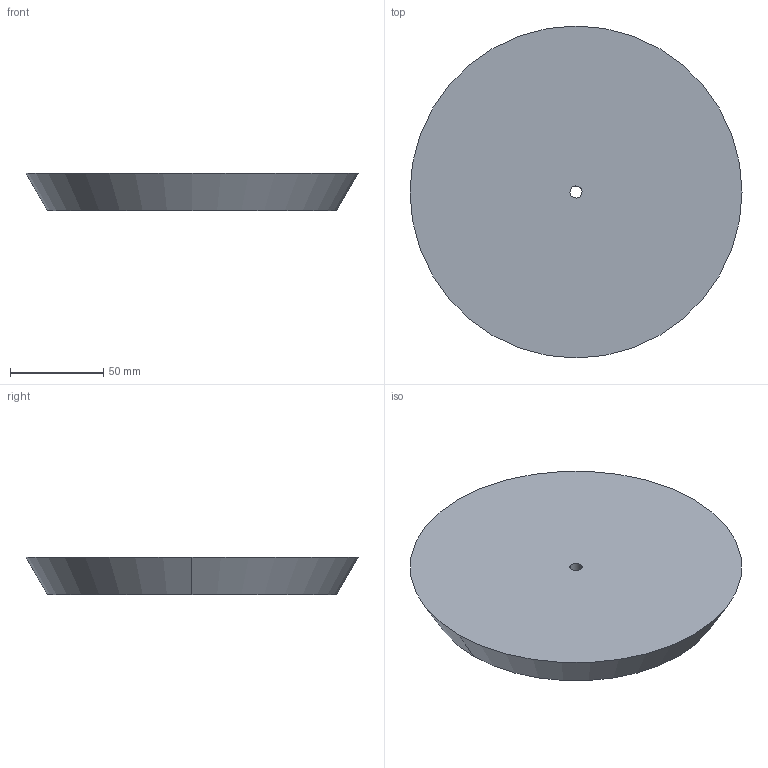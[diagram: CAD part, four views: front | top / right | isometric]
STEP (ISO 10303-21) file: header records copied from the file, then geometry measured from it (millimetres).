
FILE_DESCRIPTION(('CATIA V5 STEP Exchange'),'2;1');
FILE_NAME('C:\Users\andres.garcia\OneDrive - IQS\ASIGNATURAS\DAO\Controles\2223\c0\c1-GARCIA_Andres-tapon.stp','2023-02-03T08:22:08+00:00',('none'),('none'),'CATIA Version 5-6 Release 2013 SP6','CATIA V5 STEP AP203','none');
FILE_SCHEMA(('CONFIG_CONTROL_DESIGN'));
Length unit declared in the file: millimetre
Products named in the file (1): c1-GARCIA_Andres-tapon
Bounding box: 178 x 178 x 20 mm (x, y, z)
Volume: 435248.7 mm3; surface area: 56149.4 mm2
Topology: 1 solids, 1 shells, 6 faces, 12 edges, 8 vertices
Faces by surface type: cylinder 2, plane 2, cone 2
Entity records: 196 total; most frequent: CARTESIAN_POINT 26, ORIENTED_EDGE 24, DIRECTION 22, AXIS2_PLACEMENT_3D 14, EDGE_CURVE 12, CIRCLE 8, EDGE_LOOP 8, VERTEX_POINT 8
